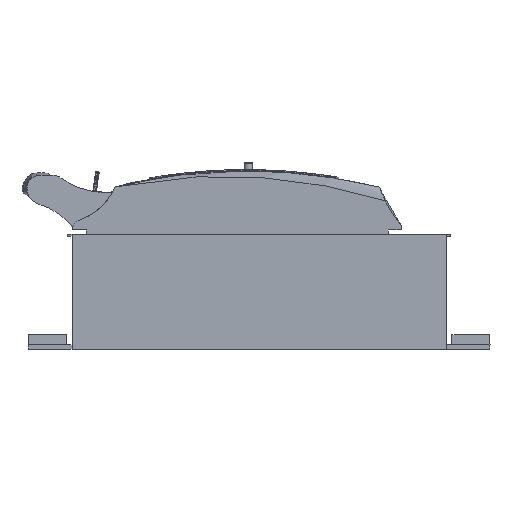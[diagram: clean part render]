
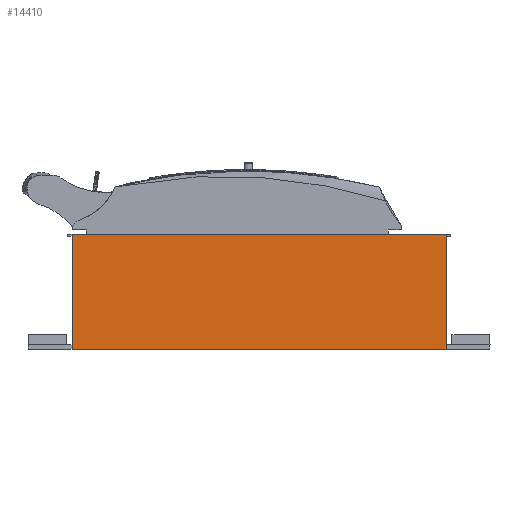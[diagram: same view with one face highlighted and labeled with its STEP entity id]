
A CAD part, front view. The second image highlights one B-rep face of the part: STEP entity #14410.
In plain terms, the highlighted planar face has unit normal (0, -1, 0).
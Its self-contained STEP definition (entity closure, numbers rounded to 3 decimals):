
#14410=ADVANCED_FACE('',(#17409),#16177,.F.);
#16177=PLANE('',#44675);
#17409=FACE_OUTER_BOUND('',#19103,.T.);
#19103=EDGE_LOOP('',(#21984,#21985,#21986,#21987));
#21984=ORIENTED_EDGE('',*,*,#34897,.T.);
#21985=ORIENTED_EDGE('',*,*,#34323,.F.);
#21986=ORIENTED_EDGE('',*,*,#34888,.F.);
#21987=ORIENTED_EDGE('',*,*,#34317,.T.);
#31144=VERTEX_POINT('',#56029);
#31145=VERTEX_POINT('',#56031);
#31150=VERTEX_POINT('',#56042);
#31151=VERTEX_POINT('',#56044);
#34317=EDGE_CURVE('',#31145,#31144,#39185,.T.);
#34323=EDGE_CURVE('',#31150,#31151,#39191,.T.);
#34888=EDGE_CURVE('',#31145,#31150,#39258,.T.);
#34897=EDGE_CURVE('',#31144,#31151,#39267,.T.);
#39185=LINE('',#56030,#41694);
#39191=LINE('',#56043,#41700);
#39258=LINE('',#58008,#41767);
#39267=LINE('',#58026,#41776);
#41694=VECTOR('',#47343,1.);
#41700=VECTOR('',#47351,1.);
#41767=VECTOR('',#48192,1.);
#41776=VECTOR('',#48207,1.);
#44675=AXIS2_PLACEMENT_3D('',#58027,#48208,#48209);
#47343=DIRECTION('',(0.,0.,-1.));
#47351=DIRECTION('',(0.,0.,-1.));
#48192=DIRECTION('',(1.,0.,0.));
#48207=DIRECTION('',(1.,0.,0.));
#48208=DIRECTION('',(0.,1.,0.));
#48209=DIRECTION('',(0.,0.,1.));
#56029=CARTESIAN_POINT('',(-109.172,-104.,116.103));
#56030=CARTESIAN_POINT('',(-109.172,-104.,196.103));
#56031=CARTESIAN_POINT('',(-109.172,-104.,196.103));
#56042=CARTESIAN_POINT('',(150.828,-104.,196.103));
#56043=CARTESIAN_POINT('',(150.828,-104.,196.103));
#56044=CARTESIAN_POINT('',(150.828,-104.,116.103));
#58008=CARTESIAN_POINT('',(150.828,-104.,196.103));
#58026=CARTESIAN_POINT('',(150.828,-104.,116.103));
#58027=CARTESIAN_POINT('',(150.828,-104.,196.103));
